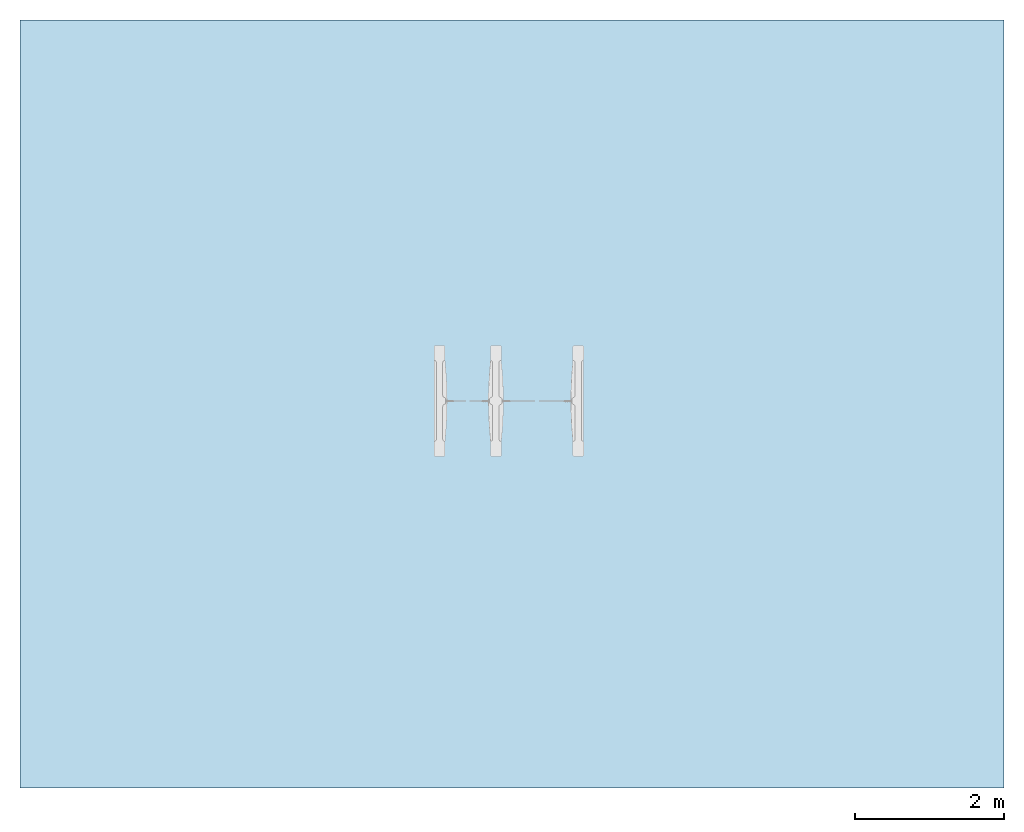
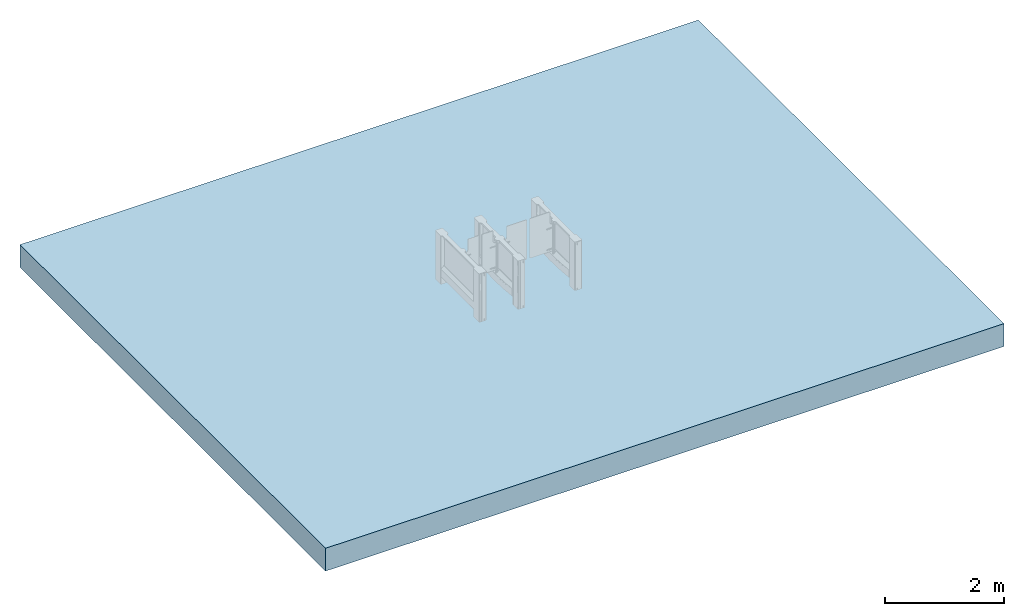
# One storey, incomplete: 1 slab.
"""IFC2X3 building model written with IfcOpenShell, lengths in millimetres."""

from ifc_helpers import new_model, entity, si_unit, converted_unit, derived_unit, direction, frame, frame_2d, origin, place, context, subcontext, project, spatial, rectangle, extrude, material, layer, layer_set, layer_usage, element, save


model = new_model("IFC2X3")

# Units and contexts
model_context = context("Model", 3, precision=0.01, world=origin(), true_north=direction((6.12303176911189e-17, 1.0)))
body_context = subcontext(model_context, "Body", "Model", "MODEL_VIEW")
ifc_project = project(units=[si_unit("LENGTHUNIT", "METRE", prefix="MILLI"), si_unit("AREAUNIT", "SQUARE_METRE"), si_unit("VOLUMEUNIT", "CUBIC_METRE"), converted_unit("PLANEANGLEUNIT", "DEGREE", entity("IfcRatioMeasure", 0.0174532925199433), si_unit("PLANEANGLEUNIT", "RADIAN"), dimensions=[0, 0, 0, 0, 0, 0, 0]), si_unit("MASSUNIT", "GRAM", prefix="KILO"), si_unit("TIMEUNIT", "SECOND"), si_unit("FREQUENCYUNIT", "HERTZ"), si_unit("THERMODYNAMICTEMPERATUREUNIT", "DEGREE_CELSIUS"), derived_unit("THERMALTRANSMITTANCEUNIT", [(si_unit("MASSUNIT", "GRAM", prefix="KILO"), 1), (si_unit("THERMODYNAMICTEMPERATUREUNIT", "KELVIN"), -1), (si_unit("TIMEUNIT", "SECOND"), -3)]), derived_unit("VOLUMETRICFLOWRATEUNIT", [(si_unit("LENGTHUNIT", "METRE"), 3), (si_unit("TIMEUNIT", "SECOND"), -1)]), si_unit("ELECTRICCURRENTUNIT", "AMPERE"), si_unit("ELECTRICVOLTAGEUNIT", "VOLT"), si_unit("POWERUNIT", "WATT"), si_unit("FORCEUNIT", "NEWTON", prefix="KILO"), si_unit("ILLUMINANCEUNIT", "LUX"), si_unit("LUMINOUSFLUXUNIT", "LUMEN"), si_unit("LUMINOUSINTENSITYUNIT", "CANDELA"), derived_unit("USERDEFINED", [(si_unit("MASSUNIT", "GRAM", prefix="KILO"), -1), (si_unit("LENGTHUNIT", "METRE"), -2), (si_unit("TIMEUNIT", "SECOND"), 3), (si_unit("LUMINOUSFLUXUNIT", "LUMEN"), 1)]), derived_unit("LINEARVELOCITYUNIT", [(si_unit("LENGTHUNIT", "METRE"), 1), (si_unit("TIMEUNIT", "SECOND"), -1)]), si_unit("PRESSUREUNIT", "PASCAL"), derived_unit("USERDEFINED", [(si_unit("LENGTHUNIT", "METRE"), -2), (si_unit("MASSUNIT", "GRAM", prefix="KILO"), 1), (si_unit("TIMEUNIT", "SECOND"), -2)])], contexts=[model_context])

# Site, building, storey
site_placement = place(None, origin())
site = spatial("IfcSite", under=ifc_project, at=site_placement, Name="Default", CompositionType="ELEMENT")
building_placement = place(site_placement, origin())
building = spatial("IfcBuilding", under=site, at=building_placement, CompositionType="ELEMENT")
storey_placement = place(building_placement, origin())
storey = spatial("IfcBuildingStorey", under=building, at=storey_placement, Name="Level 0", CompositionType="ELEMENT", Elevation=0.0)

# Slab
ifc_material_1 = material(Name="Concrete, Sand/Cement Screed")
ifc_layer_1 = layer(ifc_material_1, 65.0)
ifc_material_2 = material(Name="Rigid insulation")
ifc_layer_2 = layer(ifc_material_2, 80.0)
ifc_material_3 = material(Name="Air")
ifc_layer_3 = layer(ifc_material_3, 150.0)
ifc_material_4 = material(Name="Concrete Masonry, Floor Block")
ifc_layer_4 = layer(ifc_material_4, 100.0)
ifc_material_5 = material(Name="Concrete, Precast")
ifc_layer_5 = layer(ifc_material_5, 75.0)
ifc_layer_set = layer_set([ifc_layer_1, ifc_layer_2, ifc_layer_3, ifc_layer_4, ifc_layer_5], Name="Floor:Floor-Grnd-Susp_65Scr-80Ins-100Blk-75PC")
ifc_layer_usage = layer_usage(ifc_layer_set, "AXIS3", "POSITIVE", 0.0)
slab_placement = place(storey_placement, origin())
element("IfcSlab", 1, at=slab_placement, inside=storey, material=ifc_layer_usage, Name="Floor:Floor-Grnd-Susp_65Scr-80Ins-100Blk-75PC", ObjectType="Floor:Floor-Grnd-Susp_65Scr-80Ins-100Blk-75PC", PredefinedType="FLOOR", context=body_context, shape_type="SweptSolid", body=[
    extrude(rectangle(XDim=10300.0, YDim=13200.0, at=frame_2d((0.0, 4.54747350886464e-13), x_axis=(1.0, 0.0))), frame((-870.736474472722, -340.24552895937, 0.0), z_axis=(0.0, 0.0, -1.0), x_axis=(0.0, 1.0, 0.0)), (0.0, 0.0, 1.0), 470.0),
])

save(model, "model.ifc")
